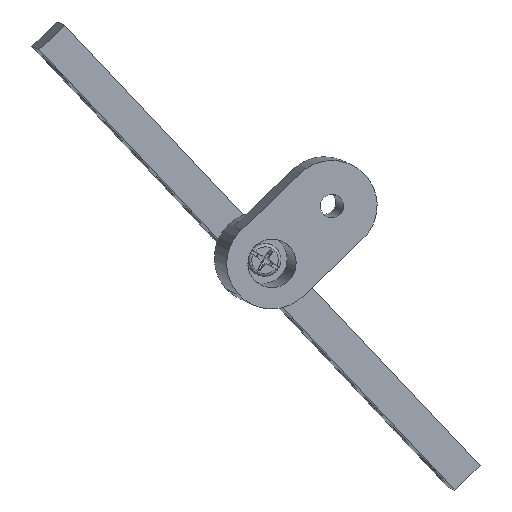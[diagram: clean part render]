
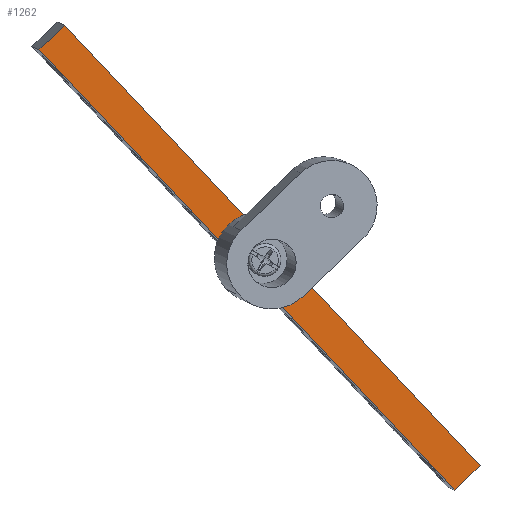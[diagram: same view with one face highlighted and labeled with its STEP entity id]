
A CAD part, front view. The second image highlights one B-rep face of the part: STEP entity #1262.
In plain terms, the highlighted planar face has unit normal (0.133, -0.989, -0.061) as drawn and (0, -1, 0) by its records, which use the part's own axes.
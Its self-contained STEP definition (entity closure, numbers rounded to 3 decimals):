
#66 = EDGE_LOOP ( 'NONE', ( #4818, #847, #3329, #6354 ) ) ;
#319 = DIRECTION ( 'NONE',  ( 0., 0., 1. ) ) ;
#656 = EDGE_CURVE ( 'NONE', #732, #2276, #8210, .T. ) ;
#732 = VERTEX_POINT ( 'NONE', #1405 ) ;
#847 = ORIENTED_EDGE ( 'NONE', *, *, #8756, .F. ) ;
#870 = VERTEX_POINT ( 'NONE', #1502 ) ;
#933 = CARTESIAN_POINT ( 'NONE',  ( 51.5, 0., -1.38 ) ) ;
#1105 = ORIENTED_EDGE ( 'NONE', *, *, #8075, .T. ) ;
#1262 = ADVANCED_FACE ( 'NONE', ( #9736, #1937 ), #8134, .T. ) ;
#1405 = CARTESIAN_POINT ( 'NONE',  ( 0., 0., -6. ) ) ;
#1411 = VECTOR ( 'NONE', #4205, 1000. ) ;
#1502 = CARTESIAN_POINT ( 'NONE',  ( 0., 0., 0. ) ) ;
#1655 = LINE ( 'NONE', #9507, #1411 ) ;
#1875 = LINE ( 'NONE', #6303, #6947 ) ;
#1937 = FACE_OUTER_BOUND ( 'NONE', #66, .T. ) ;
#1953 = DIRECTION ( 'NONE',  ( 0., 0., 1. ) ) ;
#2092 = LINE ( 'NONE', #6465, #5642 ) ;
#2111 = CARTESIAN_POINT ( 'NONE',  ( 0., 0., -6. ) ) ;
#2276 = VERTEX_POINT ( 'NONE', #3872 ) ;
#2620 = DIRECTION ( 'NONE',  ( 0., 1., 0. ) ) ;
#2823 = CIRCLE ( 'NONE', #7885, 1.62 ) ;
#2878 = DIRECTION ( 'NONE',  ( 0., -1., 0. ) ) ;
#3329 = ORIENTED_EDGE ( 'NONE', *, *, #656, .T. ) ;
#3604 = CARTESIAN_POINT ( 'NONE',  ( 51.5, 0., -3. ) ) ;
#3606 = VERTEX_POINT ( 'NONE', #6143 ) ;
#3872 = CARTESIAN_POINT ( 'NONE',  ( 103., 0., -6. ) ) ;
#3898 = CARTESIAN_POINT ( 'NONE',  ( 51.5, 0., -4.62 ) ) ;
#4094 = CIRCLE ( 'NONE', #6692, 1.62 ) ;
#4128 = EDGE_CURVE ( 'NONE', #8594, #9318, #4094, .T. ) ;
#4205 = DIRECTION ( 'NONE',  ( 1., 0., 0. ) ) ;
#4221 = CARTESIAN_POINT ( 'NONE',  ( 0., 0., -6. ) ) ;
#4351 = DIRECTION ( 'NONE',  ( 0., 0., 1. ) ) ;
#4818 = ORIENTED_EDGE ( 'NONE', *, *, #6977, .F. ) ;
#5642 = VECTOR ( 'NONE', #1953, 1000. ) ;
#6143 = CARTESIAN_POINT ( 'NONE',  ( 103., 0., 0. ) ) ;
#6189 = VECTOR ( 'NONE', #8917, 1000. ) ;
#6303 = CARTESIAN_POINT ( 'NONE',  ( 103., 0., -6. ) ) ;
#6354 = ORIENTED_EDGE ( 'NONE', *, *, #7547, .T. ) ;
#6465 = CARTESIAN_POINT ( 'NONE',  ( 0., 0., -6. ) ) ;
#6692 = AXIS2_PLACEMENT_3D ( 'NONE', #3604, #8904, #4351 ) ;
#6947 = VECTOR ( 'NONE', #319, 1000. ) ;
#6977 = EDGE_CURVE ( 'NONE', #870, #3606, #1655, .T. ) ;
#7154 = CARTESIAN_POINT ( 'NONE',  ( 51.5, 0., -3. ) ) ;
#7239 = EDGE_LOOP ( 'NONE', ( #7858, #1105 ) ) ;
#7547 = EDGE_CURVE ( 'NONE', #2276, #3606, #1875, .T. ) ;
#7858 = ORIENTED_EDGE ( 'NONE', *, *, #4128, .T. ) ;
#7885 = AXIS2_PLACEMENT_3D ( 'NONE', #7154, #2620, #7921 ) ;
#7921 = DIRECTION ( 'NONE',  ( 0., 0., 1. ) ) ;
#8075 = EDGE_CURVE ( 'NONE', #9318, #8594, #2823, .T. ) ;
#8134 = PLANE ( 'NONE',  #9294 ) ;
#8164 = DIRECTION ( 'NONE',  ( 0., 0., -1. ) ) ;
#8210 = LINE ( 'NONE', #4221, #6189 ) ;
#8594 = VERTEX_POINT ( 'NONE', #933 ) ;
#8756 = EDGE_CURVE ( 'NONE', #732, #870, #2092, .T. ) ;
#8904 = DIRECTION ( 'NONE',  ( 0., 1., 0. ) ) ;
#8917 = DIRECTION ( 'NONE',  ( 1., 0., 0. ) ) ;
#9294 = AXIS2_PLACEMENT_3D ( 'NONE', #2111, #2878, #8164 ) ;
#9318 = VERTEX_POINT ( 'NONE', #3898 ) ;
#9507 = CARTESIAN_POINT ( 'NONE',  ( 0., 0., 0. ) ) ;
#9736 = FACE_BOUND ( 'NONE', #7239, .T. ) ;
